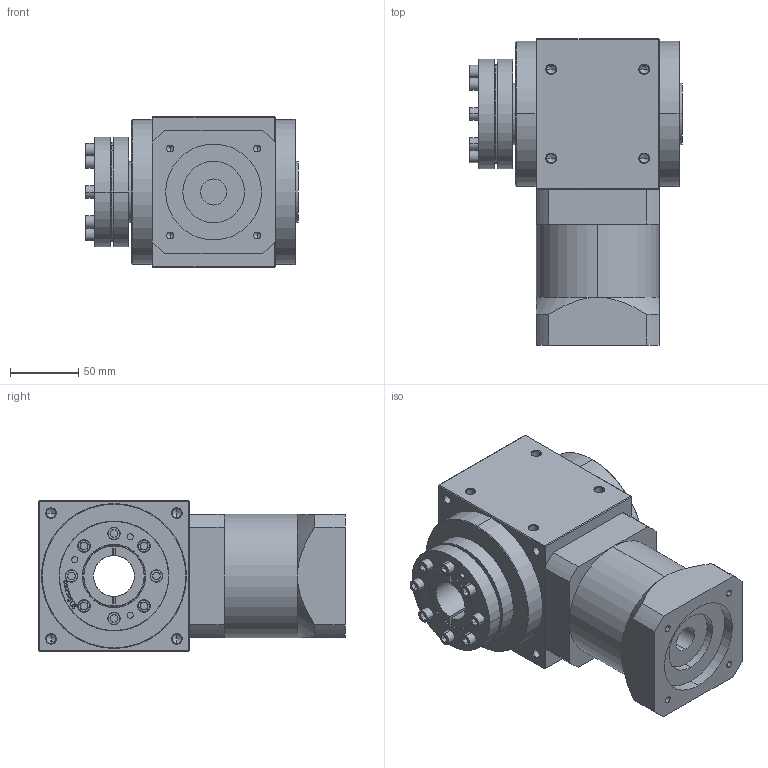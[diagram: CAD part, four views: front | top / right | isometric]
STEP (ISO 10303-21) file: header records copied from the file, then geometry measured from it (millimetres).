
FILE_DESCRIPTION (( 'STEP AP214' ), '1' );
FILE_NAME ('AAW110AS-010-RFHP-L1(3-10) 19-70-90-M6.STEP', '2021-04-24T03:18:16', ( 'Microsoft' ), ( 'Microsoft China' ), 'SwSTEP 2.0', 'SolidWorks 2016', '' );
FILE_SCHEMA (( 'AUTOMOTIVE_DESIGN' ));
Length unit declared in the file: millimetre
Products named in the file (3): AAW110AS-L2-HPL-22-110-145-M8_2; AAW110AS-010-RFHP-L1(3-10) 19-70-90-M6; 83_44x80_1
Assembly tree (2 placements, depth 2):
  AAW110AS-010-RFHP-L1(3-10) 19-70-90-M6
    AAW110AS-L2-HPL-22-110-145-M8_2
    83_44x80_1
Bounding box: 155.6 x 224 x 110 mm (x, y, z)
Volume: 2120445.5 mm3; surface area: 196573.4 mm2
Topology: 14 solids, 14 shells, 709 faces, 1653 edges, 973 vertices
Faces by surface type: cylinder 289, cone 184, plane 184, bspline 52
Entity records: 29718 total; most frequent: CARTESIAN_POINT 5935, DIRECTION 3388, ORIENTED_EDGE 3210, EDGE_CURVE 1605, AXIS2_PLACEMENT_3D 1296, VERTEX_POINT 973, EDGE_LOOP 814, LINE 796
